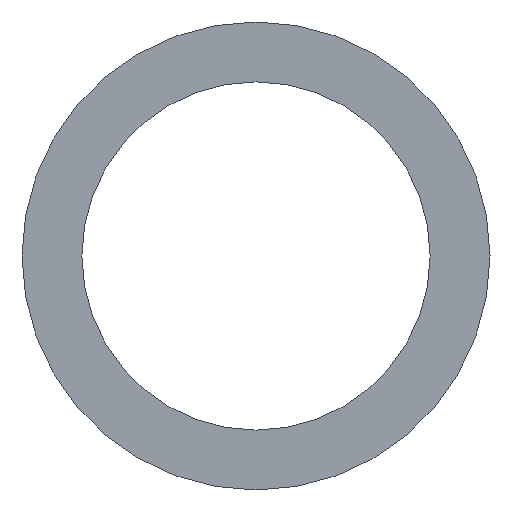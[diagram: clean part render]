
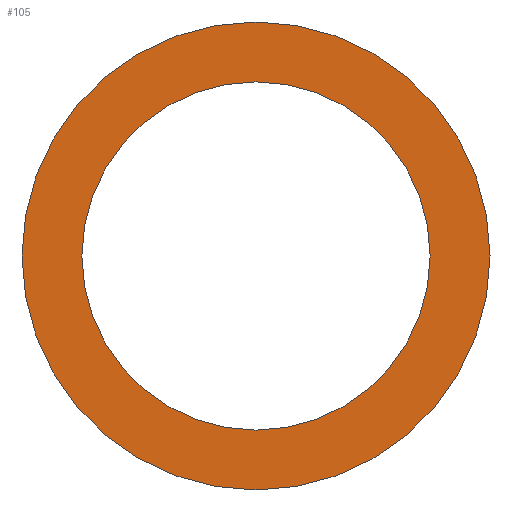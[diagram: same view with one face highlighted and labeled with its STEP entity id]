
A CAD part, front view. The second image highlights one B-rep face of the part: STEP entity #105.
In plain terms, the highlighted planar face has unit normal (0, -1, 0).
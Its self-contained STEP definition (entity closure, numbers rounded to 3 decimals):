
#2 = CARTESIAN_POINT ( 'NONE',  ( -18.6, -1450., 0. ) ) ;
#18 = DIRECTION ( 'NONE',  ( 1., 0., 0. ) ) ;
#21 = PLANE ( 'NONE',  #113 ) ;
#29 = CIRCLE ( 'NONE', #65, 25. ) ;
#31 = CARTESIAN_POINT ( 'NONE',  ( 0., -1450., 0. ) ) ;
#37 = DIRECTION ( 'NONE',  ( 1., 0., 0. ) ) ;
#42 = EDGE_LOOP ( 'NONE', ( #161, #71 ) ) ;
#52 = CARTESIAN_POINT ( 'NONE',  ( 0., -1450., 0. ) ) ;
#56 = EDGE_CURVE ( 'NONE', #107, #126, #29, .T. ) ;
#60 = EDGE_CURVE ( 'NONE', #142, #120, #173, .T. ) ;
#65 = AXIS2_PLACEMENT_3D ( 'NONE', #52, #108, #37 ) ;
#68 = DIRECTION ( 'NONE',  ( 0., -1., 0. ) ) ;
#71 = ORIENTED_EDGE ( 'NONE', *, *, #56, .T. ) ;
#73 = CARTESIAN_POINT ( 'NONE',  ( -25., -1450., 0. ) ) ;
#74 = CARTESIAN_POINT ( 'NONE',  ( 18.6, -1450., 0. ) ) ;
#77 = DIRECTION ( 'NONE',  ( 1., 0., 0. ) ) ;
#88 = FACE_BOUND ( 'NONE', #168, .T. ) ;
#91 = DIRECTION ( 'NONE',  ( 1., 0., 0. ) ) ;
#92 = EDGE_CURVE ( 'NONE', #120, #142, #195, .T. ) ;
#94 = AXIS2_PLACEMENT_3D ( 'NONE', #31, #185, #18 ) ;
#97 = CARTESIAN_POINT ( 'NONE',  ( 0., -1450., 0. ) ) ;
#105 = ADVANCED_FACE ( 'NONE', ( #88, #188 ), #21, .T. ) ;
#107 = VERTEX_POINT ( 'NONE', #171 ) ;
#108 = DIRECTION ( 'NONE',  ( 0., -1., 0. ) ) ;
#113 = AXIS2_PLACEMENT_3D ( 'NONE', #249, #68, #91 ) ;
#120 = VERTEX_POINT ( 'NONE', #2 ) ;
#126 = VERTEX_POINT ( 'NONE', #73 ) ;
#129 = DIRECTION ( 'NONE',  ( 0., -1., 0. ) ) ;
#135 = DIRECTION ( 'NONE',  ( 0., -1., 0. ) ) ;
#142 = VERTEX_POINT ( 'NONE', #74 ) ;
#161 = ORIENTED_EDGE ( 'NONE', *, *, #229, .T. ) ;
#167 = AXIS2_PLACEMENT_3D ( 'NONE', #97, #135, #77 ) ;
#168 = EDGE_LOOP ( 'NONE', ( #172, #209 ) ) ;
#171 = CARTESIAN_POINT ( 'NONE',  ( 25., -1450., 0. ) ) ;
#172 = ORIENTED_EDGE ( 'NONE', *, *, #92, .F. ) ;
#173 = CIRCLE ( 'NONE', #186, 18.6 ) ;
#185 = DIRECTION ( 'NONE',  ( 0., -1., 0. ) ) ;
#186 = AXIS2_PLACEMENT_3D ( 'NONE', #206, #129, #208 ) ;
#188 = FACE_OUTER_BOUND ( 'NONE', #42, .T. ) ;
#195 = CIRCLE ( 'NONE', #94, 18.6 ) ;
#199 = CIRCLE ( 'NONE', #167, 25. ) ;
#206 = CARTESIAN_POINT ( 'NONE',  ( 0., -1450., 0. ) ) ;
#208 = DIRECTION ( 'NONE',  ( 1., 0., 0. ) ) ;
#209 = ORIENTED_EDGE ( 'NONE', *, *, #60, .F. ) ;
#229 = EDGE_CURVE ( 'NONE', #126, #107, #199, .T. ) ;
#249 = CARTESIAN_POINT ( 'NONE',  ( 0., -1450., 0. ) ) ;
